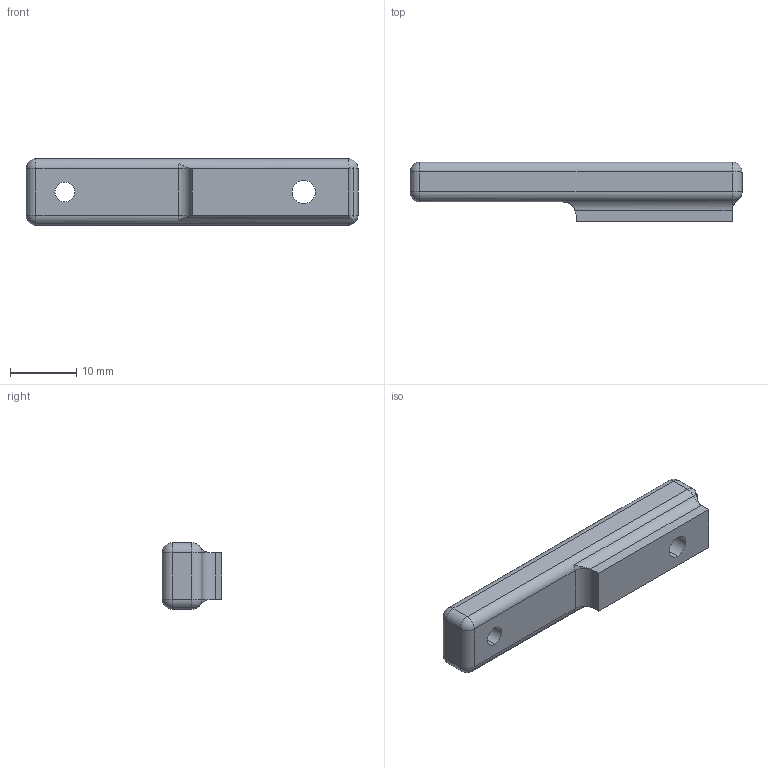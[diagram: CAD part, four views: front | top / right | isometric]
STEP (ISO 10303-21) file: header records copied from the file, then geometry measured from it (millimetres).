
FILE_DESCRIPTION (( 'STEP AP203' ), '1' );
FILE_NAME ('Servo Arm.STEP', '2026-01-17T21:10:58', ( '' ), ( '' ), 'SwSTEP 2.0', 'SolidWorks 2026', '' );
FILE_SCHEMA (( 'CONFIG_CONTROL_DESIGN' ));
Length unit declared in the file: millimetre
Products named in the file (1): Servo Arm
Bounding box: 50 x 9.01 x 10 mm (x, y, z)
Volume: 3190.3 mm3; surface area: 1863.8 mm2
Topology: 1 solids, 1 shells, 48 faces, 107 edges, 54 vertices
Faces by surface type: cylinder 22, plane 12, sphere 8, torus 6
Entity records: 1358 total; most frequent: DIRECTION 243, CARTESIAN_POINT 240, ORIENTED_EDGE 198, EDGE_CURVE 99, AXIS2_PLACEMENT_3D 99, VERTEX_POINT 54, EDGE_LOOP 53, CIRCLE 50
